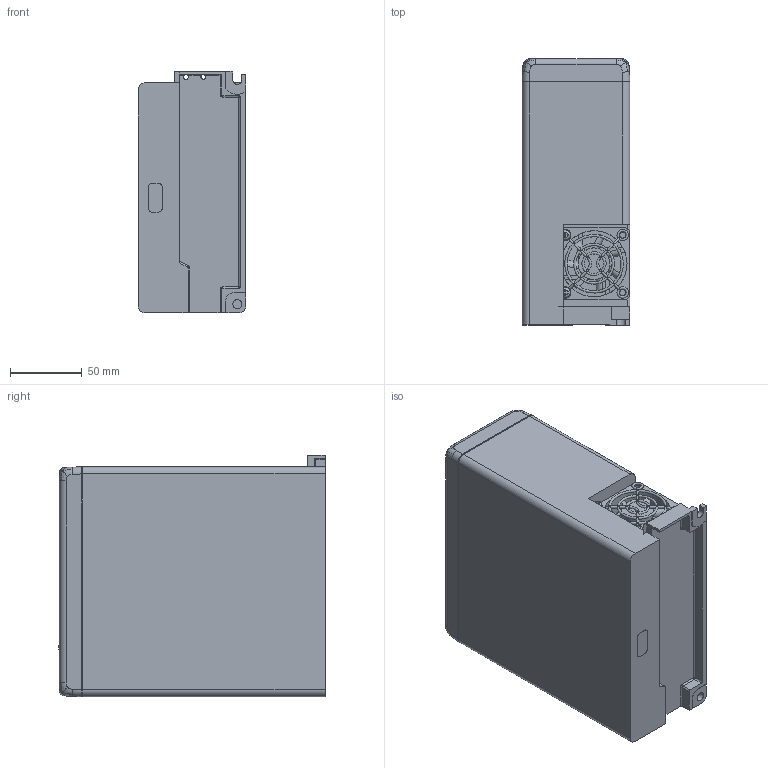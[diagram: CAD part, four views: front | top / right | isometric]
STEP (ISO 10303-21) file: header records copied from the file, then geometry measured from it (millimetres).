
FILE_DESCRIPTION((''),'2;1');
FILE_NAME('C:\test\給張合達的框架\OK\SDB1KW框架.stp','2013-06-26T14:03:31',('123'),(''),'Autodesk Inventor 2013','Autodesk Inventor 2013','');
FILE_SCHEMA(('AUTOMOTIVE_DESIGN { 1 0 10303 214 1 1 1 1 }'));
Length unit declared in the file: millimetre
Products named in the file (1): SDB1KW框架
Bounding box: 75 x 185.7 x 168 mm (x, y, z)
Surface area: 138965.9 mm2
Topology: 4 solids, 5 shells, 442 faces, 1252 edges, 878 vertices
Faces by surface type: plane 240, cylinder 139, bspline 28, torus 23, cone 9, sphere 3
Full cylindrical faces by diameter (mm): 1.65 x16, 3.242 x2, 4 x4, 4.3 x2, 6.1 x1, 6.2 x1, 22 x1
Entity records: 18369 total; most frequent: CARTESIAN_POINT 6787, ORIENTED_EDGE 2236, DIRECTION 2174, EDGE_CURVE 1118, VERTEX_POINT 745, AXIS2_PLACEMENT_3D 741, VECTOR 692, LINE 692
